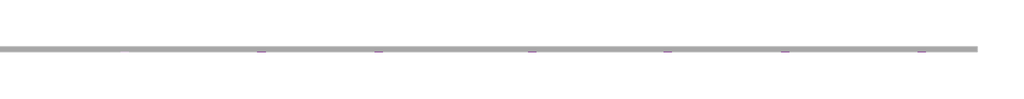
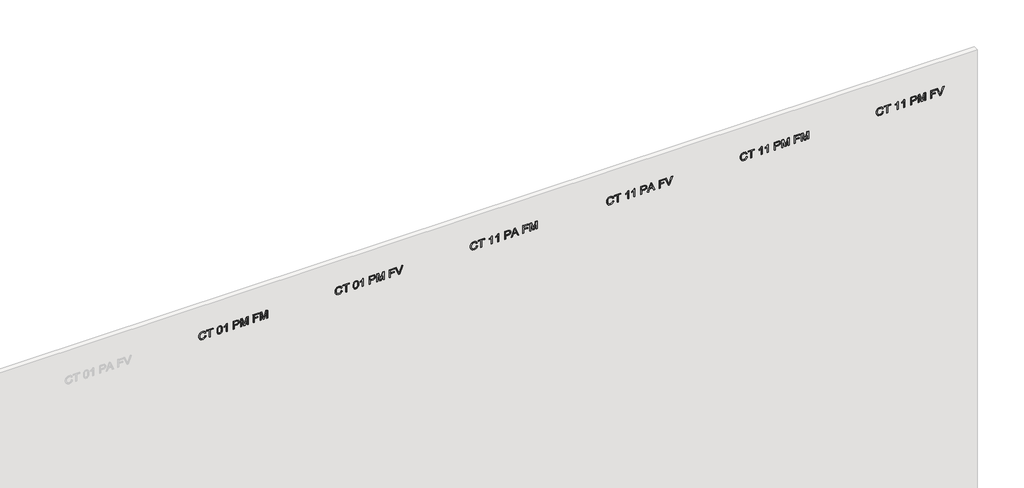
# One storey, part 2 of 2: 6 proxies.
"""IFC4 building model written with IfcOpenShell, lengths in millimetres."""

from ifc_helpers import new_model, si_unit, frame, origin, place, context, project, spatial, polyline, outline, extrude, element, save

model = new_model("IFC4")

# Units and contexts
model_context = context("Model", 3, world=origin())
ifc_project = project(units=[si_unit("LENGTHUNIT", "METRE", prefix="MILLI")], contexts=[model_context])

# Site, building, storey
site = spatial("IfcSite", under=ifc_project)
building = spatial("IfcBuilding", under=site)
storey = spatial("IfcBuildingStorey", under=building, Name="01 - Marelli - Planta Baixa - Cabine 01 Pessoa", Elevation=0.0)

# Proxies
placement = place(None, origin())
element("IfcBuildingElementProxy", 1, Name="300mm Arial", ObjectType="300mm Arial", at=placement, inside=storey, context=model_context, shape_type="SweptSolid", body=[
    extrude(outline(polyline([(5807.127237, 7824.9358079), (5774.863986, 7812.7497168), (5751.6506321, 7792.9668625), (5737.6343281, 7766.7644674), (5732.9622268, 7735.3197539), (5736.3927264, 7708.3448066), (5746.6842252, 7683.3380279), (5763.9102996, 7662.4791188), (5788.144526, 7647.94778), (5818.2372732, 7639.4221148), (5853.03891, 7636.5802264), (5881.4577941, 7638.9806564), (5909.0305497, 7646.1819464), (5933.4211259, 7659.3061366), (5952.2934723, 7679.475267), (5964.3783958, 7706.0547411), (5968.4067037, 7738.4099626), (5964.773869, 7766.4793589), (5953.8753649, 7789.3248308), (5935.0306097, 7807.1671075), (5907.5590217, 7820.2269184), (5916.5353424, 7857.8980347), (5954.3536115, 7841.2605714), (5969.6758966, 7829.4584572), (5982.6069487, 7815.3340878), (5992.8754549, 7799.1541778), (6000.2101022, 7781.1854416), (6006.07782, 7739.8814906), (6001.5436744, 7702.0264333), (5987.9412376, 7667.482314), (5965.6016035, 7638.355257), (5934.8558657, 7616.7513868), (5896.9088379, 7603.3696792), (5852.9653336, 7598.9091101), (5811.3026976, 7602.8546445), (5772.3991767, 7614.6912476), (5739.3081912, 7634.0786288), (5715.0831618, 7660.676497), (5700.2391233, 7695.3769662), (5695.2911105, 7739.0721502), (5696.9258861, 7761.4945578), (5701.8302129, 7782.1143437), (5710.004091, 7800.9315077), (5721.4475203, 7817.94605), (5736.004151, 7832.8222782), (5753.5176332, 7845.2244999), (5773.987967, 7855.1527153), (5797.4151523, 7862.6069242), (5807.127237, 7824.9358079)])), frame((0.0, 8778.3159498, 0.0), z_axis=(0.0, 1.0, 0.0), x_axis=(0.0, 0.0, 1.0)), (0.0, 0.0, 1.0), 10.0),
    extrude(outline(polyline([(5700.0, 7989.7469417), (5700.0, 8027.418058), (5963.6978141, 8027.418058), (5963.6978141, 8126.3047383), (6001.3689304, 8126.3047383), (6001.3689304, 7890.8602614), (5963.6978141, 7890.8602614), (5963.6978141, 7989.7469417), (5700.0, 7989.7469417)])), frame((0.0, 8778.3159498, 0.0), z_axis=(0.0, 1.0, 0.0), x_axis=(0.0, 0.0, 1.0)), (0.0, 0.0, 1.0), 10.0),
    extrude(outline(polyline([(5848.2564441, 8272.280314), (5808.8148956, 8274.1565122), (5774.9559565, 8279.7851067), (5746.6796267, 8289.1660976), (5723.9859061, 8302.2994848), (5711.431933, 8315.9846951), (5702.4648094, 8332.02435), (5697.0845352, 8350.4184498), (5695.2911105, 8371.1669943), (5699.4205859, 8401.6184265), (5711.809012, 8426.3125054), (5732.5943448, 8445.414778), (5761.9145398, 8459.0907912), (5800.2938289, 8467.3129538), (5848.2564441, 8470.0536746), (5888.2176258, 8468.3430234), (5919.0737281, 8463.2110695), (5943.3723339, 8455.375183), (5963.6610259, 8445.5527338), (5979.8018485, 8432.5481052), (5991.6568458, 8415.165681), (5998.9409093, 8394.3803482), (6001.3689304, 8371.1669943), (5997.2670462, 8340.8811091), (5984.9613935, 8316.2422124), (5964.2588342, 8297.1123487), (5934.9662303, 8283.3535621), (5896.4949707, 8275.048626), (5848.2564441, 8272.280314)]), holes=[polyline([(5848.3300205, 8309.9514303), (5906.8232577, 8314.5131671), (5927.902896, 8320.215338), (5943.5378808, 8328.1983773), (5958.6578308, 8347.1443), (5963.6978141, 8370.7255359), (5957.9772491, 8395.631147), (5940.815554, 8415.3128337), (5926.4543607, 8422.7808383), (5906.2530406, 8428.1151272), (5848.3300205, 8432.3825583), (5789.1653986, 8427.9679744), (5768.9019984, 8422.4497445), (5754.8512055, 8414.7242226), (5738.4344714, 8395.0057476), (5732.9622268, 8371.1669943), (5738.4160773, 8347.328241), (5754.7776291, 8327.6097661), (5768.8054294, 8319.8842442), (5789.0734281, 8314.3660143), (5848.3300205, 8309.9514303)])]), frame((0.0, 8778.3159498, 0.0), z_axis=(0.0, 1.0, 0.0), x_axis=(0.0, 0.0, 1.0)), (0.0, 0.0, 1.0), 10.0),
    extrude(outline(polyline([(5700.0, 8644.2825875), (6001.3689304, 8644.2825875), (6001.3689304, 8620.0023759), (5981.6320614, 8606.6942447), (5961.269793, 8586.4883261), (5942.1215351, 8560.8561481), (5926.0266978, 8531.2692386), (5890.4157207, 8531.2692386), (5909.4352199, 8570.9269177), (5934.8558657, 8606.6114712), (5700.0, 8606.6114712), (5700.0, 8644.2825875)])), frame((0.0, 8778.3159498, 0.0), z_axis=(0.0, 1.0, 0.0), x_axis=(0.0, 0.0, 1.0)), (0.0, 0.0, 1.0), 10.0),
    extrude(outline(polyline([(5700.0, 8865.6003958), (5700.0, 8903.2715122), (5822.431128, 8903.2715122), (5822.431128, 8979.8645435), (5824.095794, 9009.0628777), (5829.0897921, 9033.3821768), (5837.4131222, 9052.822441), (5849.0657844, 9067.3836702), (5863.1234752, 9077.990168), (5878.661891, 9085.5662378), (5895.6810318, 9090.1118797), (5914.1808976, 9091.6270937), (5935.637615, 9089.3830135), (5955.2733165, 9082.650773), (5971.9199767, 9072.2305155), (5984.4095705, 9058.9223843), (5993.1375708, 9042.3952857), (5998.4994509, 9022.3181258), (6001.3689304, 8977.2893696), (6001.3689304, 8865.6003958), (5700.0, 8865.6003958)]), holes=[polyline([(5860.1022443, 8903.2715122), (5963.6978141, 8903.2715122), (5963.6978141, 8981.1889187), (5961.1226402, 9018.860035), (5954.7950699, 9033.0878712), (5944.0529156, 9044.2806809), (5929.7790942, 9051.5371533), (5912.8565224, 9053.9559774), (5890.5812676, 9049.8540931), (5873.9346073, 9037.5484404), (5863.5603351, 9015.4755207), (5860.1022443, 8982.0718355), (5860.1022443, 8903.2715122)])]), frame((0.0, 8778.3159498, 0.0), z_axis=(0.0, 1.0, 0.0), x_axis=(0.0, 0.0, 1.0)), (0.0, 0.0, 1.0), 10.0),
    extrude(outline(polyline([(5700.0, 9143.4248786), (5700.0, 9181.0959949), (5963.6978141, 9181.0959949), (5700.0, 9256.8061095), (5700.0, 9307.8681304), (5963.6978141, 9383.5782451), (5700.0, 9383.5782451), (5700.0, 9421.2493614), (6001.3689304, 9421.2493614), (6001.3689304, 9356.4285538), (5792.6326864, 9295.801601), (5744.5872978, 9282.33712), (5788.9538664, 9269.9027085), (6001.3689304, 9208.2456862), (6001.3689304, 9143.4248786), (5700.0, 9143.4248786)])), frame((0.0, 8778.3159498, 0.0), z_axis=(0.0, 1.0, 0.0), x_axis=(0.0, 0.0, 1.0)), (0.0, 0.0, 1.0), 10.0),
    extrude(outline(polyline([(5700.0, 9604.8960534), (5700.0, 9642.5671697), (5836.5577966, 9642.5671697), (5836.5577966, 9783.8338558), (5874.2289129, 9783.8338558), (5874.2289129, 9642.5671697), (5963.6978141, 9642.5671697), (5963.6978141, 9807.3783035), (6001.3689304, 9807.3783035), (6001.3689304, 9604.8960534), (5700.0, 9604.8960534)])), frame((0.0, 8778.3159498, 0.0), z_axis=(0.0, 1.0, 0.0), x_axis=(0.0, 0.0, 1.0)), (0.0, 0.0, 1.0), 10.0),
    extrude(outline(polyline([(5700.0, 9859.1760884), (5700.0, 9896.8472047), (5963.6978141, 9896.8472047), (5700.0, 9972.5573193), (5700.0, 10023.6193403), (5963.6978141, 10099.3294549), (5700.0, 10099.3294549), (5700.0, 10137.0005712), (6001.3689304, 10137.0005712), (6001.3689304, 10072.1797636), (5792.6326864, 10011.5528108), (5744.5872978, 9998.0883298), (5788.9538664, 9985.6539184), (6001.3689304, 9923.996896), (6001.3689304, 9859.1760884), (5700.0, 9859.1760884)])), frame((0.0, 8778.3159498, 0.0), z_axis=(0.0, 1.0, 0.0), x_axis=(0.0, 0.0, 1.0)), (0.0, 0.0, 1.0), 10.0),
])
element("IfcBuildingElementProxy", 2, Name="300mm Arial", ObjectType="300mm Arial", at=placement, inside=storey, context=model_context, shape_type="SweptSolid", body=[
    extrude(outline(polyline([(5807.127237, 12857.8980347), (5774.863986, 12845.7119436), (5751.6506321, 12825.9290893), (5737.6343281, 12799.7266942), (5732.9622268, 12768.2819806), (5736.3927264, 12741.3070333), (5746.6842252, 12716.3002547), (5763.9102996, 12695.4413456), (5788.144526, 12680.9100068), (5818.2372732, 12672.3843415), (5853.03891, 12669.5424531), (5881.4577941, 12671.9428831), (5909.0305497, 12679.1441732), (5933.4211259, 12692.2683634), (5952.2934723, 12712.4374938), (5964.3783958, 12739.0169679), (5968.4067037, 12771.3721894), (5964.773869, 12799.4415856), (5953.8753649, 12822.2870575), (5935.0306097, 12840.1293343), (5907.5590217, 12853.1891451), (5916.5353424, 12890.8602614), (5954.3536115, 12874.2227982), (5969.6758966, 12862.4206839), (5982.6069487, 12848.2963146), (5992.8754549, 12832.1164046), (6000.2101022, 12814.1476684), (6006.07782, 12772.8437174), (6001.5436744, 12734.9886601), (5987.9412376, 12700.4445407), (5965.6016035, 12671.3174838), (5934.8558657, 12649.7136136), (5896.9088379, 12636.331906), (5852.9653336, 12631.8713368), (5811.3026976, 12635.8168712), (5772.3991767, 12647.6534744), (5739.3081912, 12667.0408556), (5715.0831618, 12693.6387238), (5700.2391233, 12728.339193), (5695.2911105, 12772.034377), (5696.9258861, 12794.4567846), (5701.8302129, 12815.0765704), (5710.004091, 12833.8937345), (5721.4475203, 12850.9082767), (5736.004151, 12865.7845049), (5753.5176332, 12878.1867267), (5773.987967, 12888.114942), (5797.4151523, 12895.569151), (5807.127237, 12857.8980347)])), frame((0.0, 8778.3159498, 0.0), z_axis=(0.0, 1.0, 0.0), x_axis=(0.0, 0.0, 1.0)), (0.0, 0.0, 1.0), 10.0),
    extrude(outline(polyline([(5700.0, 13022.7091685), (5700.0, 13060.3802848), (5963.6978141, 13060.3802848), (5963.6978141, 13159.2669651), (6001.3689304, 13159.2669651), (6001.3689304, 12923.8224882), (5963.6978141, 12923.8224882), (5963.6978141, 13022.7091685), (5700.0, 13022.7091685)])), frame((0.0, 8778.3159498, 0.0), z_axis=(0.0, 1.0, 0.0), x_axis=(0.0, 0.0, 1.0)), (0.0, 0.0, 1.0), 10.0),
    extrude(outline(polyline([(5848.2564441, 13305.2425408), (5808.8148956, 13307.118739), (5774.9559565, 13312.7473335), (5746.6796267, 13322.1283244), (5723.9859061, 13335.2617116), (5711.431933, 13348.9469218), (5702.4648094, 13364.9865768), (5697.0845352, 13383.3806766), (5695.2911105, 13404.1292211), (5699.4205859, 13434.5806532), (5711.809012, 13459.2747322), (5732.5943448, 13478.3770048), (5761.9145398, 13492.0530179), (5800.2938289, 13500.2751805), (5848.2564441, 13503.0159014), (5888.2176258, 13501.3052501), (5919.0737281, 13496.1732963), (5943.3723339, 13488.3374098), (5963.6610259, 13478.5149605), (5979.8018485, 13465.510332), (5991.6568458, 13448.1279077), (5998.9409093, 13427.342575), (6001.3689304, 13404.1292211), (5997.2670462, 13373.8433358), (5984.9613935, 13349.2044392), (5964.2588342, 13330.0745755), (5934.9662303, 13316.3157888), (5896.4949707, 13308.0108528), (5848.2564441, 13305.2425408)]), holes=[polyline([(5848.3300205, 13342.9136571), (5906.8232577, 13347.4753938), (5927.902896, 13353.1775648), (5943.5378808, 13361.1606041), (5958.6578308, 13380.1065268), (5963.6978141, 13403.6877627), (5957.9772491, 13428.5933738), (5940.815554, 13448.2750605), (5926.4543607, 13455.743065), (5906.2530406, 13461.0773539), (5848.3300205, 13465.3447851), (5789.1653986, 13460.9302012), (5768.9019984, 13455.4119712), (5754.8512055, 13447.6864493), (5738.4344714, 13427.9679744), (5732.9622268, 13404.1292211), (5738.4160773, 13380.2904678), (5754.7776291, 13360.5719929), (5768.8054294, 13352.846471), (5789.0734281, 13347.328241), (5848.3300205, 13342.9136571)])]), frame((0.0, 8778.3159498, 0.0), z_axis=(0.0, 1.0, 0.0), x_axis=(0.0, 0.0, 1.0)), (0.0, 0.0, 1.0), 10.0),
    extrude(outline(polyline([(5700.0, 13677.2448143), (6001.3689304, 13677.2448143), (6001.3689304, 13652.9646026), (5981.6320614, 13639.6564715), (5961.269793, 13619.4505529), (5942.1215351, 13593.8183749), (5926.0266978, 13564.2314654), (5890.4157207, 13564.2314654), (5909.4352199, 13603.8891445), (5934.8558657, 13639.573698), (5700.0, 13639.573698), (5700.0, 13677.2448143)])), frame((0.0, 8778.3159498, 0.0), z_axis=(0.0, 1.0, 0.0), x_axis=(0.0, 0.0, 1.0)), (0.0, 0.0, 1.0), 10.0),
    extrude(outline(polyline([(5700.0, 13898.5626226), (5700.0, 13936.2337389), (5822.431128, 13936.2337389), (5822.431128, 14012.8267703), (5824.095794, 14042.0251044), (5829.0897921, 14066.3444036), (5837.4131222, 14085.7846677), (5849.0657844, 14100.345897), (5863.1234752, 14110.9523947), (5878.661891, 14118.5284646), (5895.6810318, 14123.0741065), (5914.1808976, 14124.5893204), (5935.637615, 14122.3452403), (5955.2733165, 14115.6129998), (5971.9199767, 14105.1927423), (5984.4095705, 14091.8846111), (5993.1375708, 14075.3575124), (5998.4994509, 14055.2803526), (6001.3689304, 14010.2515963), (6001.3689304, 13898.5626226), (5700.0, 13898.5626226)]), holes=[polyline([(5860.1022443, 13936.2337389), (5963.6978141, 13936.2337389), (5963.6978141, 14014.1511455), (5961.1226402, 14051.8222618), (5954.7950699, 14066.050098), (5944.0529156, 14077.2429077), (5929.7790942, 14084.49938), (5912.8565224, 14086.9182041), (5890.5812676, 14082.8163199), (5873.9346073, 14070.5106672), (5863.5603351, 14048.4377474), (5860.1022443, 14015.0340623), (5860.1022443, 13936.2337389)])]), frame((0.0, 8778.3159498, 0.0), z_axis=(0.0, 1.0, 0.0), x_axis=(0.0, 0.0, 1.0)), (0.0, 0.0, 1.0), 10.0),
    extrude(outline(polyline([(5700.0, 14176.3871054), (5700.0, 14214.0582217), (5963.6978141, 14214.0582217), (5700.0, 14289.7683363), (5700.0, 14340.8303572), (5963.6978141, 14416.5404718), (5700.0, 14416.5404718), (5700.0, 14454.2115881), (6001.3689304, 14454.2115881), (6001.3689304, 14389.3907806), (5792.6326864, 14328.7638278), (5744.5872978, 14315.2993467), (5788.9538664, 14302.8649353), (6001.3689304, 14241.2079129), (6001.3689304, 14176.3871054), (5700.0, 14176.3871054)])), frame((0.0, 8778.3159498, 0.0), z_axis=(0.0, 1.0, 0.0), x_axis=(0.0, 0.0, 1.0)), (0.0, 0.0, 1.0), 10.0),
    extrude(outline(polyline([(5700.0, 14637.8582801), (5700.0, 14675.5293964), (5836.5577966, 14675.5293964), (5836.5577966, 14816.7960826), (5874.2289129, 14816.7960826), (5874.2289129, 14675.5293964), (5963.6978141, 14675.5293964), (5963.6978141, 14840.3405303), (6001.3689304, 14840.3405303), (6001.3689304, 14637.8582801), (5700.0, 14637.8582801)])), frame((0.0, 8778.3159498, 0.0), z_axis=(0.0, 1.0, 0.0), x_axis=(0.0, 0.0, 1.0)), (0.0, 0.0, 1.0), 10.0),
    extrude(outline(polyline([(5700.0, 14981.165758), (5700.0, 15020.0876731), (6001.3689304, 15134.940432), (6001.3689304, 15094.6205653), (5784.2449769, 15014.1279848), (5735.3166715, 14998.0883298), (5784.2449769, 14981.8279456), (6001.3689304, 14901.5560943), (6001.3689304, 14861.2362276), (5700.0, 14981.165758)])), frame((0.0, 8778.3159498, 0.0), z_axis=(0.0, 1.0, 0.0), x_axis=(0.0, 0.0, 1.0)), (0.0, 0.0, 1.0), 10.0),
])
element("IfcBuildingElementProxy", 3, Name="300mm Arial", ObjectType="300mm Arial", at=placement, inside=storey, context=model_context, shape_type="SweptSolid", body=[
    extrude(outline(polyline([(5807.127237, 17857.8980347), (5774.863986, 17845.7119436), (5751.6506321, 17825.9290893), (5737.6343281, 17799.7266942), (5732.9622268, 17768.2819806), (5736.3927264, 17741.3070333), (5746.6842252, 17716.3002547), (5763.9102996, 17695.4413456), (5788.144526, 17680.9100068), (5818.2372732, 17672.3843415), (5853.03891, 17669.5424531), (5881.4577941, 17671.9428831), (5909.0305497, 17679.1441732), (5933.4211259, 17692.2683634), (5952.2934723, 17712.4374938), (5964.3783958, 17739.0169679), (5968.4067037, 17771.3721894), (5964.773869, 17799.4415856), (5953.8753649, 17822.2870575), (5935.0306097, 17840.1293343), (5907.5590217, 17853.1891451), (5916.5353424, 17890.8602614), (5954.3536115, 17874.2227982), (5969.6758966, 17862.4206839), (5982.6069487, 17848.2963146), (5992.8754549, 17832.1164046), (6000.2101022, 17814.1476684), (6006.07782, 17772.8437174), (6001.5436744, 17734.9886601), (5987.9412376, 17700.4445407), (5965.6016035, 17671.3174838), (5934.8558657, 17649.7136136), (5896.9088379, 17636.331906), (5852.9653336, 17631.8713368), (5811.3026976, 17635.8168712), (5772.3991767, 17647.6534744), (5739.3081912, 17667.0408556), (5715.0831618, 17693.6387238), (5700.2391233, 17728.339193), (5695.2911105, 17772.034377), (5696.9258861, 17794.4567846), (5701.8302129, 17815.0765704), (5710.004091, 17833.8937345), (5721.4475203, 17850.9082767), (5736.004151, 17865.7845049), (5753.5176332, 17878.1867267), (5773.987967, 17888.114942), (5797.4151523, 17895.569151), (5807.127237, 17857.8980347)])), frame((0.0, 8778.3159498, 0.0), z_axis=(0.0, 1.0, 0.0), x_axis=(0.0, 0.0, 1.0)), (0.0, 0.0, 1.0), 10.0),
    extrude(outline(polyline([(5700.0, 18022.7091685), (5700.0, 18060.3802848), (5963.6978141, 18060.3802848), (5963.6978141, 18159.2669651), (6001.3689304, 18159.2669651), (6001.3689304, 17923.8224882), (5963.6978141, 17923.8224882), (5963.6978141, 18022.7091685), (5700.0, 18022.7091685)])), frame((0.0, 8778.3159498, 0.0), z_axis=(0.0, 1.0, 0.0), x_axis=(0.0, 0.0, 1.0)), (0.0, 0.0, 1.0), 10.0),
    extrude(outline(polyline([(5700.0, 18446.5092269), (6001.3689304, 18446.5092269), (6001.3689304, 18422.2290153), (5981.6320614, 18408.9208841), (5961.269793, 18388.7149655), (5942.1215351, 18363.0827875), (5926.0266978, 18333.495878), (5890.4157207, 18333.495878), (5909.4352199, 18373.1535571), (5934.8558657, 18408.8381106), (5700.0, 18408.8381106), (5700.0, 18446.5092269)])), frame((0.0, 8778.3159498, 0.0), z_axis=(0.0, 1.0, 0.0), x_axis=(0.0, 0.0, 1.0)), (0.0, 0.0, 1.0), 10.0),
    extrude(outline(polyline([(5700.0, 18677.2448143), (6001.3689304, 18677.2448143), (6001.3689304, 18652.9646026), (5981.6320614, 18639.6564715), (5961.269793, 18619.4505529), (5942.1215351, 18593.8183749), (5926.0266978, 18564.2314654), (5890.4157207, 18564.2314654), (5909.4352199, 18603.8891445), (5934.8558657, 18639.573698), (5700.0, 18639.573698), (5700.0, 18677.2448143)])), frame((0.0, 8778.3159498, 0.0), z_axis=(0.0, 1.0, 0.0), x_axis=(0.0, 0.0, 1.0)), (0.0, 0.0, 1.0), 10.0),
    extrude(outline(polyline([(5700.0, 18898.5626226), (5700.0, 18936.2337389), (5822.431128, 18936.2337389), (5822.431128, 19012.8267703), (5824.095794, 19042.0251044), (5829.0897921, 19066.3444036), (5837.4131222, 19085.7846677), (5849.0657844, 19100.345897), (5863.1234752, 19110.9523947), (5878.661891, 19118.5284646), (5895.6810318, 19123.0741065), (5914.1808976, 19124.5893204), (5935.637615, 19122.3452403), (5955.2733165, 19115.6129998), (5971.9199767, 19105.1927423), (5984.4095705, 19091.8846111), (5993.1375708, 19075.3575124), (5998.4994509, 19055.2803526), (6001.3689304, 19010.2515963), (6001.3689304, 18898.5626226), (5700.0, 18898.5626226)]), holes=[polyline([(5860.1022443, 18936.2337389), (5963.6978141, 18936.2337389), (5963.6978141, 19014.1511455), (5961.1226402, 19051.8222618), (5954.7950699, 19066.050098), (5944.0529156, 19077.2429077), (5929.7790942, 19084.49938), (5912.8565224, 19086.9182041), (5890.5812676, 19082.8163199), (5873.9346073, 19070.5106672), (5863.5603351, 19048.4377474), (5860.1022443, 19015.0340623), (5860.1022443, 18936.2337389)])]), frame((0.0, 8778.3159498, 0.0), z_axis=(0.0, 1.0, 0.0), x_axis=(0.0, 0.0, 1.0)), (0.0, 0.0, 1.0), 10.0),
    extrude(outline(polyline([(5700.0, 19141.291163), (5700.0, 19181.0959949), (5794.1777908, 19215.5297497), (5794.1777908, 19339.6531348), (5700.0, 19374.160466), (5700.0, 19413.9652979), (6001.3689304, 19293.6678854), (6001.3689304, 19261.5885755), (5700.0, 19141.291163)]), holes=[polyline([(5831.8489071, 19229.3621127), (5912.415064, 19258.8662487), (5963.6978141, 19277.6282304), (5905.9403409, 19298.744657), (5831.8489071, 19325.8943482), (5831.8489071, 19229.3621127)])]), frame((0.0, 8778.3159498, 0.0), z_axis=(0.0, 1.0, 0.0), x_axis=(0.0, 0.0, 1.0)), (0.0, 0.0, 1.0), 10.0),
    extrude(outline(polyline([(5700.0, 19571.9338266), (5700.0, 19609.6049429), (5836.5577966, 19609.6049429), (5836.5577966, 19750.871629), (5874.2289129, 19750.871629), (5874.2289129, 19609.6049429), (5963.6978141, 19609.6049429), (5963.6978141, 19774.4160767), (6001.3689304, 19774.4160767), (6001.3689304, 19571.9338266), (5700.0, 19571.9338266)])), frame((0.0, 8778.3159498, 0.0), z_axis=(0.0, 1.0, 0.0), x_axis=(0.0, 0.0, 1.0)), (0.0, 0.0, 1.0), 10.0),
    extrude(outline(polyline([(5700.0, 19826.2138617), (5700.0, 19863.884978), (5963.6978141, 19863.884978), (5700.0, 19939.5950926), (5700.0, 19990.6571135), (5963.6978141, 20066.3672281), (5700.0, 20066.3672281), (5700.0, 20104.0383444), (6001.3689304, 20104.0383444), (6001.3689304, 20039.2175369), (5792.6326864, 19978.5905841), (5744.5872978, 19965.126103), (5788.9538664, 19952.6916916), (6001.3689304, 19891.0346692), (6001.3689304, 19826.2138617), (5700.0, 19826.2138617)])), frame((0.0, 8778.3159498, 0.0), z_axis=(0.0, 1.0, 0.0), x_axis=(0.0, 0.0, 1.0)), (0.0, 0.0, 1.0), 10.0),
])
element("IfcBuildingElementProxy", 4, Name="300mm Arial", ObjectType="300mm Arial", at=placement, inside=storey, context=model_context, shape_type="SweptSolid", body=[
    extrude(outline(polyline([(5807.127237, 27824.9358079), (5774.863986, 27812.7497168), (5751.6506321, 27792.9668625), (5737.6343281, 27766.7644674), (5732.9622268, 27735.3197539), (5736.3927264, 27708.3448066), (5746.6842252, 27683.3380279), (5763.9102996, 27662.4791188), (5788.144526, 27647.94778), (5818.2372732, 27639.4221148), (5853.03891, 27636.5802264), (5881.4577941, 27638.9806564), (5909.0305497, 27646.1819464), (5933.4211259, 27659.3061366), (5952.2934723, 27679.475267), (5964.3783958, 27706.0547411), (5968.4067037, 27738.4099626), (5964.773869, 27766.4793589), (5953.8753649, 27789.3248308), (5935.0306097, 27807.1671075), (5907.5590217, 27820.2269184), (5916.5353424, 27857.8980347), (5954.3536115, 27841.2605714), (5969.6758966, 27829.4584572), (5982.6069487, 27815.3340878), (5992.8754549, 27799.1541778), (6000.2101022, 27781.1854416), (6006.07782, 27739.8814906), (6001.5436744, 27702.0264333), (5987.9412376, 27667.482314), (5965.6016035, 27638.355257), (5934.8558657, 27616.7513868), (5896.9088379, 27603.3696792), (5852.9653336, 27598.9091101), (5811.3026976, 27602.8546445), (5772.3991767, 27614.6912476), (5739.3081912, 27634.0786288), (5715.0831618, 27660.676497), (5700.2391233, 27695.3769662), (5695.2911105, 27739.0721502), (5696.9258861, 27761.4945578), (5701.8302129, 27782.1143437), (5710.004091, 27800.9315077), (5721.4475203, 27817.94605), (5736.004151, 27832.8222782), (5753.5176332, 27845.2244999), (5773.987967, 27855.1527153), (5797.4151523, 27862.6069242), (5807.127237, 27824.9358079)])), frame((0.0, 8778.3159498, 0.0), z_axis=(0.0, 1.0, 0.0), x_axis=(0.0, 0.0, 1.0)), (0.0, 0.0, 1.0), 10.0),
    extrude(outline(polyline([(5700.0, 27989.7469417), (5700.0, 28027.418058), (5963.6978141, 28027.418058), (5963.6978141, 28126.3047383), (6001.3689304, 28126.3047383), (6001.3689304, 27890.8602614), (5963.6978141, 27890.8602614), (5963.6978141, 27989.7469417), (5700.0, 27989.7469417)])), frame((0.0, 8778.3159498, 0.0), z_axis=(0.0, 1.0, 0.0), x_axis=(0.0, 0.0, 1.0)), (0.0, 0.0, 1.0), 10.0),
    extrude(outline(polyline([(5700.0, 28413.5470002), (6001.3689304, 28413.5470002), (6001.3689304, 28389.2667885), (5981.6320614, 28375.9586573), (5961.269793, 28355.7527387), (5942.1215351, 28330.1205607), (5926.0266978, 28300.5336513), (5890.4157207, 28300.5336513), (5909.4352199, 28340.1913303), (5934.8558657, 28375.8758839), (5700.0, 28375.8758839), (5700.0, 28413.5470002)])), frame((0.0, 8778.3159498, 0.0), z_axis=(0.0, 1.0, 0.0), x_axis=(0.0, 0.0, 1.0)), (0.0, 0.0, 1.0), 10.0),
    extrude(outline(polyline([(5700.0, 28644.2825875), (6001.3689304, 28644.2825875), (6001.3689304, 28620.0023759), (5981.6320614, 28606.6942447), (5961.269793, 28586.4883261), (5942.1215351, 28560.8561481), (5926.0266978, 28531.2692386), (5890.4157207, 28531.2692386), (5909.4352199, 28570.9269177), (5934.8558657, 28606.6114712), (5700.0, 28606.6114712), (5700.0, 28644.2825875)])), frame((0.0, 8778.3159498, 0.0), z_axis=(0.0, 1.0, 0.0), x_axis=(0.0, 0.0, 1.0)), (0.0, 0.0, 1.0), 10.0),
    extrude(outline(polyline([(5700.0, 28865.6003958), (5700.0, 28903.2715122), (5822.431128, 28903.2715122), (5822.431128, 28979.8645435), (5824.095794, 29009.0628777), (5829.0897921, 29033.3821768), (5837.4131222, 29052.822441), (5849.0657844, 29067.3836702), (5863.1234752, 29077.990168), (5878.661891, 29085.5662378), (5895.6810318, 29090.1118797), (5914.1808976, 29091.6270937), (5935.637615, 29089.3830135), (5955.2733165, 29082.650773), (5971.9199767, 29072.2305155), (5984.4095705, 29058.9223843), (5993.1375708, 29042.3952857), (5998.4994509, 29022.3181258), (6001.3689304, 28977.2893696), (6001.3689304, 28865.6003958), (5700.0, 28865.6003958)]), holes=[polyline([(5860.1022443, 28903.2715122), (5963.6978141, 28903.2715122), (5963.6978141, 28981.1889187), (5961.1226402, 29018.860035), (5954.7950699, 29033.0878712), (5944.0529156, 29044.2806809), (5929.7790942, 29051.5371533), (5912.8565224, 29053.9559774), (5890.5812676, 29049.8540931), (5873.9346073, 29037.5484404), (5863.5603351, 29015.4755207), (5860.1022443, 28982.0718355), (5860.1022443, 28903.2715122)])]), frame((0.0, 8778.3159498, 0.0), z_axis=(0.0, 1.0, 0.0), x_axis=(0.0, 0.0, 1.0)), (0.0, 0.0, 1.0), 10.0),
    extrude(outline(polyline([(5700.0, 29143.4248786), (5700.0, 29181.0959949), (5963.6978141, 29181.0959949), (5700.0, 29256.8061095), (5700.0, 29307.8681304), (5963.6978141, 29383.5782451), (5700.0, 29383.5782451), (5700.0, 29421.2493614), (6001.3689304, 29421.2493614), (6001.3689304, 29356.4285538), (5792.6326864, 29295.801601), (5744.5872978, 29282.33712), (5788.9538664, 29269.9027085), (6001.3689304, 29208.2456862), (6001.3689304, 29143.4248786), (5700.0, 29143.4248786)])), frame((0.0, 8778.3159498, 0.0), z_axis=(0.0, 1.0, 0.0), x_axis=(0.0, 0.0, 1.0)), (0.0, 0.0, 1.0), 10.0),
    extrude(outline(polyline([(5700.0, 29604.8960534), (5700.0, 29642.5671697), (5836.5577966, 29642.5671697), (5836.5577966, 29783.8338558), (5874.2289129, 29783.8338558), (5874.2289129, 29642.5671697), (5963.6978141, 29642.5671697), (5963.6978141, 29807.3783035), (6001.3689304, 29807.3783035), (6001.3689304, 29604.8960534), (5700.0, 29604.8960534)])), frame((0.0, 8778.3159498, 0.0), z_axis=(0.0, 1.0, 0.0), x_axis=(0.0, 0.0, 1.0)), (0.0, 0.0, 1.0), 10.0),
    extrude(outline(polyline([(5700.0, 29859.1760884), (5700.0, 29896.8472047), (5963.6978141, 29896.8472047), (5700.0, 29972.5573193), (5700.0, 30023.6193403), (5963.6978141, 30099.3294549), (5700.0, 30099.3294549), (5700.0, 30137.0005712), (6001.3689304, 30137.0005712), (6001.3689304, 30072.1797636), (5792.6326864, 30011.5528108), (5744.5872978, 29998.0883298), (5788.9538664, 29985.6539184), (6001.3689304, 29923.996896), (6001.3689304, 29859.1760884), (5700.0, 29859.1760884)])), frame((0.0, 8778.3159498, 0.0), z_axis=(0.0, 1.0, 0.0), x_axis=(0.0, 0.0, 1.0)), (0.0, 0.0, 1.0), 10.0),
])
element("IfcBuildingElementProxy", 5, Name="300mm Arial", ObjectType="300mm Arial", at=placement, inside=storey, context=model_context, shape_type="SweptSolid", body=[
    extrude(outline(polyline([(5807.127237, 22890.8602614), (5774.863986, 22878.6741703), (5751.6506321, 22858.891316), (5737.6343281, 22832.6889209), (5732.9622268, 22801.2442074), (5736.3927264, 22774.2692601), (5746.6842252, 22749.2624815), (5763.9102996, 22728.4035724), (5788.144526, 22713.8722335), (5818.2372732, 22705.3465683), (5853.03891, 22702.5046799), (5881.4577941, 22704.9051099), (5909.0305497, 22712.1064), (5933.4211259, 22725.2305901), (5952.2934723, 22745.3997205), (5964.3783958, 22771.9791947), (5968.4067037, 22804.3344162), (5964.773869, 22832.4038124), (5953.8753649, 22855.2492843), (5935.0306097, 22873.0915611), (5907.5590217, 22886.1513719), (5916.5353424, 22923.8224882), (5954.3536115, 22907.185025), (5969.6758966, 22895.3829107), (5982.6069487, 22881.2585414), (5992.8754549, 22865.0786314), (6000.2101022, 22847.1098951), (6006.07782, 22805.8059441), (6001.5436744, 22767.9508868), (5987.9412376, 22733.4067675), (5965.6016035, 22704.2797105), (5934.8558657, 22682.6758404), (5896.9088379, 22669.2941328), (5852.9653336, 22664.8335636), (5811.3026976, 22668.779098), (5772.3991767, 22680.6157012), (5739.3081912, 22700.0030823), (5715.0831618, 22726.6009506), (5700.2391233, 22761.3014198), (5695.2911105, 22804.9966038), (5696.9258861, 22827.4190114), (5701.8302129, 22848.0387972), (5710.004091, 22866.8559612), (5721.4475203, 22883.8705035), (5736.004151, 22898.7467317), (5753.5176332, 22911.1489535), (5773.987967, 22921.0771688), (5797.4151523, 22928.5313777), (5807.127237, 22890.8602614)])), frame((0.0, 8778.3159498, 0.0), z_axis=(0.0, 1.0, 0.0), x_axis=(0.0, 0.0, 1.0)), (0.0, 0.0, 1.0), 10.0),
    extrude(outline(polyline([(5700.0, 23055.6713953), (5700.0, 23093.3425116), (5963.6978141, 23093.3425116), (5963.6978141, 23192.2291919), (6001.3689304, 23192.2291919), (6001.3689304, 22956.784715), (5963.6978141, 22956.784715), (5963.6978141, 23055.6713953), (5700.0, 23055.6713953)])), frame((0.0, 8778.3159498, 0.0), z_axis=(0.0, 1.0, 0.0), x_axis=(0.0, 0.0, 1.0)), (0.0, 0.0, 1.0), 10.0),
    extrude(outline(polyline([(5700.0, 23479.4714537), (6001.3689304, 23479.4714537), (6001.3689304, 23455.191242), (5981.6320614, 23441.8831109), (5961.269793, 23421.6771923), (5942.1215351, 23396.0450143), (5926.0266978, 23366.4581048), (5890.4157207, 23366.4581048), (5909.4352199, 23406.1157839), (5934.8558657, 23441.8003374), (5700.0, 23441.8003374), (5700.0, 23479.4714537)])), frame((0.0, 8778.3159498, 0.0), z_axis=(0.0, 1.0, 0.0), x_axis=(0.0, 0.0, 1.0)), (0.0, 0.0, 1.0), 10.0),
    extrude(outline(polyline([(5700.0, 23710.2070411), (6001.3689304, 23710.2070411), (6001.3689304, 23685.9268294), (5981.6320614, 23672.6186982), (5961.269793, 23652.4127796), (5942.1215351, 23626.7806016), (5926.0266978, 23597.1936922), (5890.4157207, 23597.1936922), (5909.4352199, 23636.8513712), (5934.8558657, 23672.5359248), (5700.0, 23672.5359248), (5700.0, 23710.2070411)])), frame((0.0, 8778.3159498, 0.0), z_axis=(0.0, 1.0, 0.0), x_axis=(0.0, 0.0, 1.0)), (0.0, 0.0, 1.0), 10.0),
    extrude(outline(polyline([(5700.0, 23931.5248494), (5700.0, 23969.1959657), (5822.431128, 23969.1959657), (5822.431128, 24045.7889971), (5824.095794, 24074.9873312), (5829.0897921, 24099.3066303), (5837.4131222, 24118.7468945), (5849.0657844, 24133.3081237), (5863.1234752, 24143.9146215), (5878.661891, 24151.4906913), (5895.6810318, 24156.0363333), (5914.1808976, 24157.5515472), (5935.637615, 24155.307467), (5955.2733165, 24148.5752265), (5971.9199767, 24138.154969), (5984.4095705, 24124.8468378), (5993.1375708, 24108.3197392), (5998.4994509, 24088.2425793), (6001.3689304, 24043.2138231), (6001.3689304, 23931.5248494), (5700.0, 23931.5248494)]), holes=[polyline([(5860.1022443, 23969.1959657), (5963.6978141, 23969.1959657), (5963.6978141, 24047.1133723), (5961.1226402, 24084.7844886), (5954.7950699, 24099.0123247), (5944.0529156, 24110.2051344), (5929.7790942, 24117.4616068), (5912.8565224, 24119.8804309), (5890.5812676, 24115.7785467), (5873.9346073, 24103.4728939), (5863.5603351, 24081.3999742), (5860.1022443, 24047.9962891), (5860.1022443, 23969.1959657)])]), frame((0.0, 8778.3159498, 0.0), z_axis=(0.0, 1.0, 0.0), x_axis=(0.0, 0.0, 1.0)), (0.0, 0.0, 1.0), 10.0),
    extrude(outline(polyline([(5700.0, 24174.2533898), (5700.0, 24214.0582217), (5794.1777908, 24248.4919764), (5794.1777908, 24372.6153616), (5700.0, 24407.1226927), (5700.0, 24446.9275246), (6001.3689304, 24326.6301122), (6001.3689304, 24294.5508022), (5700.0, 24174.2533898)]), holes=[polyline([(5831.8489071, 24262.3243394), (5912.415064, 24291.8284755), (5963.6978141, 24310.5904572), (5905.9403409, 24331.7068837), (5831.8489071, 24358.856575), (5831.8489071, 24262.3243394)])]), frame((0.0, 8778.3159498, 0.0), z_axis=(0.0, 1.0, 0.0), x_axis=(0.0, 0.0, 1.0)), (0.0, 0.0, 1.0), 10.0),
    extrude(outline(polyline([(5700.0, 24604.8960534), (5700.0, 24642.5671697), (5836.5577966, 24642.5671697), (5836.5577966, 24783.8338558), (5874.2289129, 24783.8338558), (5874.2289129, 24642.5671697), (5963.6978141, 24642.5671697), (5963.6978141, 24807.3783035), (6001.3689304, 24807.3783035), (6001.3689304, 24604.8960534), (5700.0, 24604.8960534)])), frame((0.0, 8778.3159498, 0.0), z_axis=(0.0, 1.0, 0.0), x_axis=(0.0, 0.0, 1.0)), (0.0, 0.0, 1.0), 10.0),
    extrude(outline(polyline([(5700.0, 24948.2035313), (5700.0, 24987.1254463), (6001.3689304, 25101.9782052), (6001.3689304, 25061.6583386), (5784.2449769, 24981.165758), (5735.3166715, 24965.126103), (5784.2449769, 24948.8657188), (6001.3689304, 24868.5938675), (6001.3689304, 24828.2740008), (5700.0, 24948.2035313)])), frame((0.0, 8778.3159498, 0.0), z_axis=(0.0, 1.0, 0.0), x_axis=(0.0, 0.0, 1.0)), (0.0, 0.0, 1.0), 10.0),
])
element("IfcBuildingElementProxy", 6, Name="300mm Arial", ObjectType="300mm Arial", at=placement, inside=storey, context=model_context, shape_type="SweptSolid", body=[
    extrude(outline(polyline([(5807.127237, 32857.8980347), (5774.863986, 32845.7119436), (5751.6506321, 32825.9290893), (5737.6343281, 32799.7266942), (5732.9622268, 32768.2819806), (5736.3927264, 32741.3070333), (5746.6842252, 32716.3002547), (5763.9102996, 32695.4413456), (5788.144526, 32680.9100068), (5818.2372732, 32672.3843415), (5853.03891, 32669.5424531), (5881.4577941, 32671.9428831), (5909.0305497, 32679.1441732), (5933.4211259, 32692.2683634), (5952.2934723, 32712.4374938), (5964.3783958, 32739.0169679), (5968.4067037, 32771.3721894), (5964.773869, 32799.4415856), (5953.8753649, 32822.2870575), (5935.0306097, 32840.1293343), (5907.5590217, 32853.1891451), (5916.5353424, 32890.8602614), (5954.3536115, 32874.2227982), (5969.6758966, 32862.4206839), (5982.6069487, 32848.2963146), (5992.8754549, 32832.1164046), (6000.2101022, 32814.1476684), (6006.07782, 32772.8437174), (6001.5436744, 32734.9886601), (5987.9412376, 32700.4445407), (5965.6016035, 32671.3174838), (5934.8558657, 32649.7136136), (5896.9088379, 32636.331906), (5852.9653336, 32631.8713368), (5811.3026976, 32635.8168712), (5772.3991767, 32647.6534744), (5739.3081912, 32667.0408556), (5715.0831618, 32693.6387238), (5700.2391233, 32728.339193), (5695.2911105, 32772.034377), (5696.9258861, 32794.4567846), (5701.8302129, 32815.0765704), (5710.004091, 32833.8937345), (5721.4475203, 32850.9082767), (5736.004151, 32865.7845049), (5753.5176332, 32878.1867267), (5773.987967, 32888.114942), (5797.4151523, 32895.569151), (5807.127237, 32857.8980347)])), frame((0.0, 8778.3159498, 0.0), z_axis=(0.0, 1.0, 0.0), x_axis=(0.0, 0.0, 1.0)), (0.0, 0.0, 1.0), 10.0),
    extrude(outline(polyline([(5700.0, 33022.7091685), (5700.0, 33060.3802848), (5963.6978141, 33060.3802848), (5963.6978141, 33159.2669651), (6001.3689304, 33159.2669651), (6001.3689304, 32923.8224882), (5963.6978141, 32923.8224882), (5963.6978141, 33022.7091685), (5700.0, 33022.7091685)])), frame((0.0, 8778.3159498, 0.0), z_axis=(0.0, 1.0, 0.0), x_axis=(0.0, 0.0, 1.0)), (0.0, 0.0, 1.0), 10.0),
    extrude(outline(polyline([(5700.0, 33446.5092269), (6001.3689304, 33446.5092269), (6001.3689304, 33422.2290153), (5981.6320614, 33408.9208841), (5961.269793, 33388.7149655), (5942.1215351, 33363.0827875), (5926.0266978, 33333.495878), (5890.4157207, 33333.495878), (5909.4352199, 33373.1535571), (5934.8558657, 33408.8381106), (5700.0, 33408.8381106), (5700.0, 33446.5092269)])), frame((0.0, 8778.3159498, 0.0), z_axis=(0.0, 1.0, 0.0), x_axis=(0.0, 0.0, 1.0)), (0.0, 0.0, 1.0), 10.0),
    extrude(outline(polyline([(5700.0, 33677.2448143), (6001.3689304, 33677.2448143), (6001.3689304, 33652.9646026), (5981.6320614, 33639.6564715), (5961.269793, 33619.4505529), (5942.1215351, 33593.8183749), (5926.0266978, 33564.2314654), (5890.4157207, 33564.2314654), (5909.4352199, 33603.8891445), (5934.8558657, 33639.573698), (5700.0, 33639.573698), (5700.0, 33677.2448143)])), frame((0.0, 8778.3159498, 0.0), z_axis=(0.0, 1.0, 0.0), x_axis=(0.0, 0.0, 1.0)), (0.0, 0.0, 1.0), 10.0),
    extrude(outline(polyline([(5700.0, 33898.5626226), (5700.0, 33936.2337389), (5822.431128, 33936.2337389), (5822.431128, 34012.8267703), (5824.095794, 34042.0251044), (5829.0897921, 34066.3444036), (5837.4131222, 34085.7846677), (5849.0657844, 34100.345897), (5863.1234752, 34110.9523947), (5878.661891, 34118.5284646), (5895.6810318, 34123.0741065), (5914.1808976, 34124.5893204), (5935.637615, 34122.3452403), (5955.2733165, 34115.6129998), (5971.9199767, 34105.1927423), (5984.4095705, 34091.8846111), (5993.1375708, 34075.3575124), (5998.4994509, 34055.2803526), (6001.3689304, 34010.2515963), (6001.3689304, 33898.5626226), (5700.0, 33898.5626226)]), holes=[polyline([(5860.1022443, 33936.2337389), (5963.6978141, 33936.2337389), (5963.6978141, 34014.1511455), (5961.1226402, 34051.8222618), (5954.7950699, 34066.050098), (5944.0529156, 34077.2429077), (5929.7790942, 34084.49938), (5912.8565224, 34086.9182041), (5890.5812676, 34082.8163199), (5873.9346073, 34070.5106672), (5863.5603351, 34048.4377474), (5860.1022443, 34015.0340623), (5860.1022443, 33936.2337389)])]), frame((0.0, 8778.3159498, 0.0), z_axis=(0.0, 1.0, 0.0), x_axis=(0.0, 0.0, 1.0)), (0.0, 0.0, 1.0), 10.0),
    extrude(outline(polyline([(5700.0, 34176.3871054), (5700.0, 34214.0582217), (5963.6978141, 34214.0582217), (5700.0, 34289.7683363), (5700.0, 34340.8303572), (5963.6978141, 34416.5404718), (5700.0, 34416.5404718), (5700.0, 34454.2115881), (6001.3689304, 34454.2115881), (6001.3689304, 34389.3907806), (5792.6326864, 34328.7638278), (5744.5872978, 34315.2993467), (5788.9538664, 34302.8649353), (6001.3689304, 34241.2079129), (6001.3689304, 34176.3871054), (5700.0, 34176.3871054)])), frame((0.0, 8778.3159498, 0.0), z_axis=(0.0, 1.0, 0.0), x_axis=(0.0, 0.0, 1.0)), (0.0, 0.0, 1.0), 10.0),
    extrude(outline(polyline([(5700.0, 34637.8582801), (5700.0, 34675.5293964), (5836.5577966, 34675.5293964), (5836.5577966, 34816.7960826), (5874.2289129, 34816.7960826), (5874.2289129, 34675.5293964), (5963.6978141, 34675.5293964), (5963.6978141, 34840.3405303), (6001.3689304, 34840.3405303), (6001.3689304, 34637.8582801), (5700.0, 34637.8582801)])), frame((0.0, 8778.3159498, 0.0), z_axis=(0.0, 1.0, 0.0), x_axis=(0.0, 0.0, 1.0)), (0.0, 0.0, 1.0), 10.0),
    extrude(outline(polyline([(5700.0, 34981.165758), (5700.0, 35020.0876731), (6001.3689304, 35134.940432), (6001.3689304, 35094.6205653), (5784.2449769, 35014.1279848), (5735.3166715, 34998.0883298), (5784.2449769, 34981.8279456), (6001.3689304, 34901.5560943), (6001.3689304, 34861.2362276), (5700.0, 34981.165758)])), frame((0.0, 8778.3159498, 0.0), z_axis=(0.0, 1.0, 0.0), x_axis=(0.0, 0.0, 1.0)), (0.0, 0.0, 1.0), 10.0),
])

save(model, "model.ifc")
